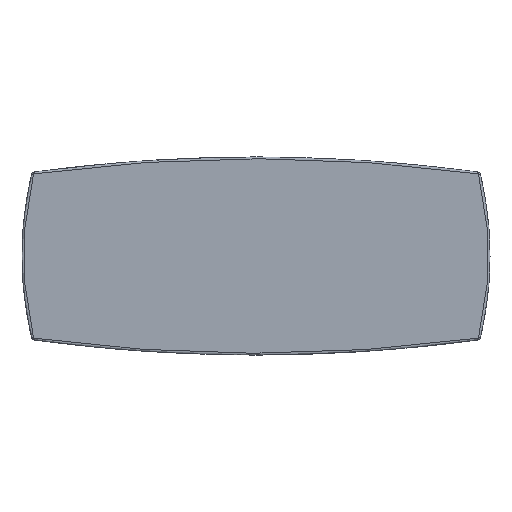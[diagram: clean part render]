
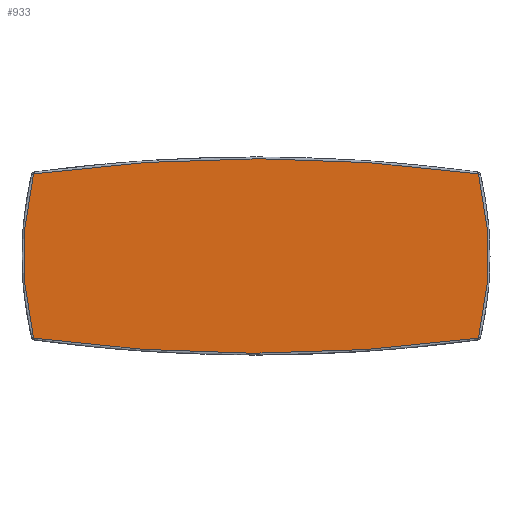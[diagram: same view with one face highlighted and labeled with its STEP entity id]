
A CAD part, top view. The second image highlights one B-rep face of the part: STEP entity #933.
In plain terms, the highlighted planar face has unit normal (0, 0, 1).
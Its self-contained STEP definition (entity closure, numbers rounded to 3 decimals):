
#933=ADVANCED_FACE('',(#1461),#6814,.T.);
#1461=FACE_OUTER_BOUND('',#1989,.T.);
#1989=EDGE_LOOP('',(#2560,#2561,#2562,#2563,#2564,#2565,#2566,#2567));
#2560=ORIENTED_EDGE('',*,*,#4747,.T.);
#2561=ORIENTED_EDGE('',*,*,#4757,.T.);
#2562=ORIENTED_EDGE('',*,*,#4750,.T.);
#2563=ORIENTED_EDGE('',*,*,#4762,.T.);
#2564=ORIENTED_EDGE('',*,*,#4752,.T.);
#2565=ORIENTED_EDGE('',*,*,#4765,.T.);
#2566=ORIENTED_EDGE('',*,*,#4754,.T.);
#2567=ORIENTED_EDGE('',*,*,#4759,.T.);
#4747=EDGE_CURVE('',#6164,#6165,#5837,.T.);
#4750=EDGE_CURVE('',#6171,#6168,#5840,.T.);
#4752=EDGE_CURVE('',#6169,#6170,#5842,.T.);
#4754=EDGE_CURVE('',#6166,#6167,#5844,.T.);
#4757=EDGE_CURVE('',#6165,#6171,#5847,.T.);
#4759=EDGE_CURVE('',#6167,#6164,#5849,.T.);
#4762=EDGE_CURVE('',#6168,#6169,#5852,.T.);
#4765=EDGE_CURVE('',#6170,#6166,#5855,.T.);
#5837=(
BOUNDED_CURVE()
B_SPLINE_CURVE(2,(#8321,#8322,#8323),.UNSPECIFIED.,.F.,.F.)
B_SPLINE_CURVE_WITH_KNOTS((3,3),(0.,2470.624),
 .UNSPECIFIED.)
CURVE()
GEOMETRIC_REPRESENTATION_ITEM()
RATIONAL_B_SPLINE_CURVE((1.,0.991,1.))
REPRESENTATION_ITEM('')
);
#5840=(
BOUNDED_CURVE()
B_SPLINE_CURVE(2,(#8330,#8331,#8332),.UNSPECIFIED.,.F.,.F.)
B_SPLINE_CURVE_WITH_KNOTS((3,3),(0.,914.056),
 .UNSPECIFIED.)
CURVE()
GEOMETRIC_REPRESENTATION_ITEM()
RATIONAL_B_SPLINE_CURVE((1.,0.972,1.))
REPRESENTATION_ITEM('')
);
#5842=(
BOUNDED_CURVE()
B_SPLINE_CURVE(2,(#8336,#8337,#8338),.UNSPECIFIED.,.F.,.F.)
B_SPLINE_CURVE_WITH_KNOTS((3,3),(0.,2470.624),
 .UNSPECIFIED.)
CURVE()
GEOMETRIC_REPRESENTATION_ITEM()
RATIONAL_B_SPLINE_CURVE((1.,0.991,1.))
REPRESENTATION_ITEM('')
);
#5844=(
BOUNDED_CURVE()
B_SPLINE_CURVE(2,(#8342,#8343,#8344),.UNSPECIFIED.,.F.,.F.)
B_SPLINE_CURVE_WITH_KNOTS((3,3),(0.,914.056),
 .UNSPECIFIED.)
CURVE()
GEOMETRIC_REPRESENTATION_ITEM()
RATIONAL_B_SPLINE_CURVE((1.,0.972,1.))
REPRESENTATION_ITEM('')
);
#5847=(
BOUNDED_CURVE()
B_SPLINE_CURVE(2,(#8351,#8352,#8353),.UNSPECIFIED.,.F.,.F.)
B_SPLINE_CURVE_WITH_KNOTS((3,3),(0.,5.983),
 .UNSPECIFIED.)
CURVE()
GEOMETRIC_REPRESENTATION_ITEM()
RATIONAL_B_SPLINE_CURVE((1.,0.826,1.))
REPRESENTATION_ITEM('')
);
#5849=(
BOUNDED_CURVE()
B_SPLINE_CURVE(2,(#8357,#8358,#8359),.UNSPECIFIED.,.F.,.F.)
B_SPLINE_CURVE_WITH_KNOTS((3,3),(0.,5.983),.UNSPECIFIED.)
CURVE()
GEOMETRIC_REPRESENTATION_ITEM()
RATIONAL_B_SPLINE_CURVE((1.,0.826,1.))
REPRESENTATION_ITEM('')
);
#5852=(
BOUNDED_CURVE()
B_SPLINE_CURVE(2,(#8366,#8367,#8368),.UNSPECIFIED.,.F.,.F.)
B_SPLINE_CURVE_WITH_KNOTS((3,3),(0.,5.983),
 .UNSPECIFIED.)
CURVE()
GEOMETRIC_REPRESENTATION_ITEM()
RATIONAL_B_SPLINE_CURVE((1.,0.826,1.))
REPRESENTATION_ITEM('')
);
#5855=(
BOUNDED_CURVE()
B_SPLINE_CURVE(2,(#8375,#8376,#8377),.UNSPECIFIED.,.F.,.F.)
B_SPLINE_CURVE_WITH_KNOTS((3,3),(0.,5.983),
 .UNSPECIFIED.)
CURVE()
GEOMETRIC_REPRESENTATION_ITEM()
RATIONAL_B_SPLINE_CURVE((1.,0.826,1.))
REPRESENTATION_ITEM('')
);
#6164=VERTEX_POINT('',#8264);
#6165=VERTEX_POINT('',#8265);
#6166=VERTEX_POINT('',#8266);
#6167=VERTEX_POINT('',#8267);
#6168=VERTEX_POINT('',#8268);
#6169=VERTEX_POINT('',#8269);
#6170=VERTEX_POINT('',#8270);
#6171=VERTEX_POINT('',#8271);
#6814=PLANE('',#7394);
#7394=AXIS2_PLACEMENT_3D('',#8074,#7731,$);
#7731=DIRECTION('',(0.,0.,1.));
#8074=CARTESIAN_POINT('',(1692.711,-2604.863,745.));
#8264=CARTESIAN_POINT('',(4549.25,-1460.889,745.));
#8265=CARTESIAN_POINT('',(2086.172,-1460.889,745.));
#8266=CARTESIAN_POINT('',(4553.433,-2370.065,745.));
#8267=CARTESIAN_POINT('',(4553.433,-1464.661,745.));
#8268=CARTESIAN_POINT('',(2081.989,-2370.065,745.));
#8269=CARTESIAN_POINT('',(2086.172,-2373.837,745.));
#8270=CARTESIAN_POINT('',(4549.25,-2373.837,745.));
#8271=CARTESIAN_POINT('',(2081.989,-1464.661,745.));
#8321=CARTESIAN_POINT('',(4549.25,-1460.889,745.));
#8322=CARTESIAN_POINT('',(3317.711,-1293.066,745.));
#8323=CARTESIAN_POINT('',(2086.172,-1460.889,745.));
#8330=CARTESIAN_POINT('',(2081.989,-1464.661,745.));
#8331=CARTESIAN_POINT('',(1971.85,-1917.363,745.));
#8332=CARTESIAN_POINT('',(2081.989,-2370.065,745.));
#8336=CARTESIAN_POINT('',(2086.172,-2373.837,745.));
#8337=CARTESIAN_POINT('',(3317.711,-2541.661,745.));
#8338=CARTESIAN_POINT('',(4549.25,-2373.837,745.));
#8342=CARTESIAN_POINT('',(4553.433,-2370.065,745.));
#8343=CARTESIAN_POINT('',(4663.572,-1917.363,745.));
#8344=CARTESIAN_POINT('',(4553.433,-1464.661,745.));
#8351=CARTESIAN_POINT('',(2086.172,-1460.889,745.));
#8352=CARTESIAN_POINT('',(2082.795,-1461.349,745.));
#8353=CARTESIAN_POINT('',(2081.989,-1464.661,745.));
#8357=CARTESIAN_POINT('',(4553.433,-1464.661,745.));
#8358=CARTESIAN_POINT('',(4552.627,-1461.349,745.));
#8359=CARTESIAN_POINT('',(4549.25,-1460.889,745.));
#8366=CARTESIAN_POINT('',(2081.989,-2370.065,745.));
#8367=CARTESIAN_POINT('',(2082.795,-2373.377,745.));
#8368=CARTESIAN_POINT('',(2086.172,-2373.837,745.));
#8375=CARTESIAN_POINT('',(4549.25,-2373.837,745.));
#8376=CARTESIAN_POINT('',(4552.627,-2373.377,745.));
#8377=CARTESIAN_POINT('',(4553.433,-2370.065,745.));
